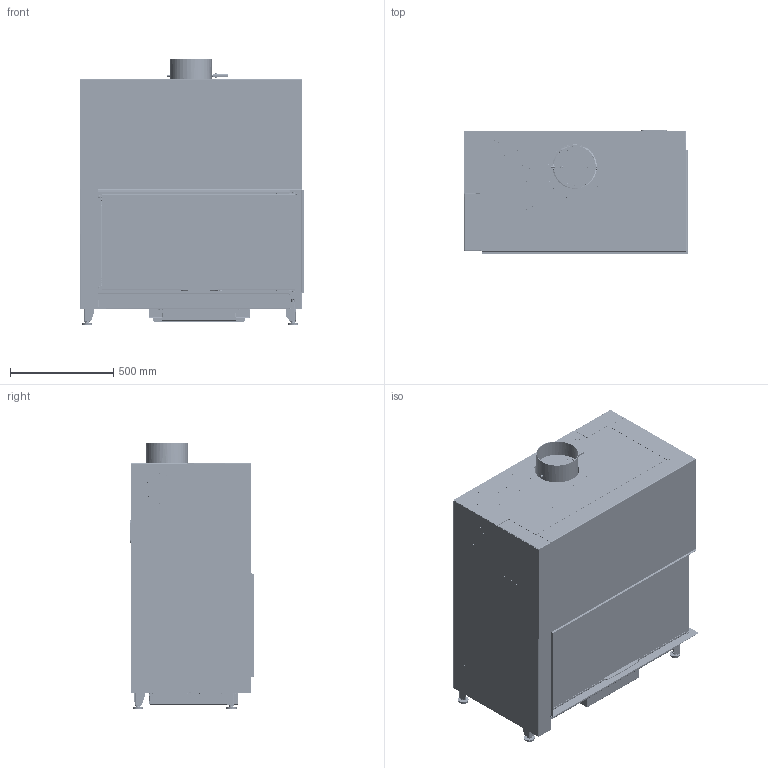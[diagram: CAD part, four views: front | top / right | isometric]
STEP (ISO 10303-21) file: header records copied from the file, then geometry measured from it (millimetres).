
FILE_DESCRIPTION(/* description */ (''),/* implementation_level */ '2;1');
FILE_NAME(/* name */ 'C:\ADSK_DM_WS\CAD_3D\03 Geraete\RII 50x100x50\Zeichnungen\RII_50x100x50_Rechts_mit_Mantel_Gen2_2022-03121.stp',/* time_stamp */ '2022-08-02T10:23:25+02:00',/* author */ ('TIS'),/* organization */ (''),/* preprocessor_version */ 'ST-DEVELOPER v18.1',/* originating_system */ 'Autodesk Inventor 2022',/* authorisation */ '');
FILE_SCHEMA (('AUTOMOTIVE_DESIGN { 1 0 10303 214 3 1 1 }'));
Products named in the file (8): 2022-03121; 2022-03120; 2022-03118; 2022-03117; 2022-03116; 2022-03115; 2022-03114; 2022-03111
Assembly tree (7 placements, depth 2):
  2022-03121
    2022-03120
    2022-03118
    2022-03117
    2022-03116
    2022-03115
    2022-03114
    2022-03111
Bounding box: 1088.9 x 596.5 x 1288.56 mm (x, y, z)
Volume: 61180382.4 mm3; surface area: 23386137.1 mm2
Topology: 24 solids, 35 shells, 8964 faces, 23995 edges, 14986 vertices
Faces by surface type: plane 5288, cylinder 3202, bspline 239, cone 172, torus 63
Full cylindrical faces by diameter (mm): 3.242 x6, 4.5 x4, 4.8 x10, 6 x5, 7.5 x1, 7.9 x1, 8 x9, 9 x3, 9.5 x10, 10 x7, 10.21 x2, 11.192 x3, 11.4 x6, 12 x2, 14 x1, 16 x17, 20 x2, 30 x4, 163 x1, 333 x1, 339 x1
Entity records: 296930 total; most frequent: CARTESIAN_POINT 60301, ORIENTED_EDGE 47950, DIRECTION 47882, EDGE_CURVE 24022, AXIS2_PLACEMENT_3D 16213, LINE 15456, VECTOR 15456, VERTEX_POINT 14988
